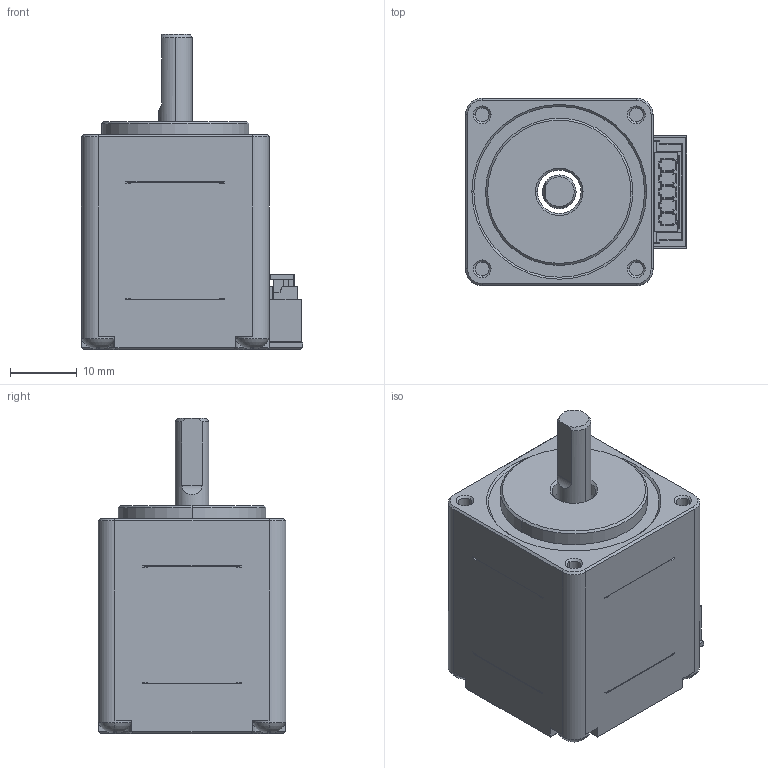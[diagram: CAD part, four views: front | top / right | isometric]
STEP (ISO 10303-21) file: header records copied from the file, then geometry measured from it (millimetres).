
FILE_DESCRIPTION((''),'2;1');
FILE_NAME('3_1_01_028_00652_SW0001','2026-04-25T09:03:23',('xujiajun'),(''),'CREO PARAMETRIC BY PTC INC, 2017110','CREO PARAMETRIC BY PTC INC, 2017110','');
FILE_SCHEMA(('CONFIG_CONTROL_DESIGN'));
Length unit declared in the file: millimetre
Products named in the file (1): 3_1_01_028_00652_SW0001
Bounding box: 33 x 28 x 47.05 mm (x, y, z)
Volume: 8754.1 mm3; surface area: 13285 mm2
Topology: 3 solids, 3 shells, 776 faces, 2166 edges, 1384 vertices
Faces by surface type: plane 534, cylinder 175, cone 51, sphere 8, torus 8
Entity records: 25519 total; most frequent: CARTESIAN_POINT 5150, ORIENTED_EDGE 4332, DIRECTION 4171, EDGE_CURVE 2166, VECTOR 1533, LINE 1533, VERTEX_POINT 1384, AXIS2_PLACEMENT_3D 1319
